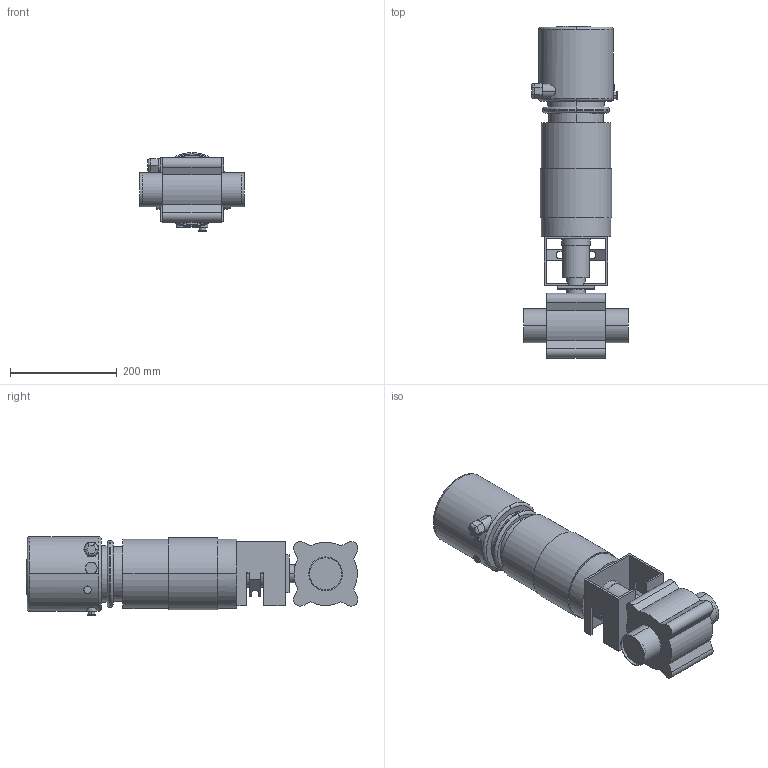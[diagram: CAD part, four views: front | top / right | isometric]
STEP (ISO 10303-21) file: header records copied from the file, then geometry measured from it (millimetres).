
FILE_DESCRIPTION(('Creo Elements/Direct Modeling STEP Export'),'2;1');
FILE_NAME('BLV1-2.5T-NC-12S-CU4.stp','2019-05-10T 8:16:58',(''),(''),'Creo Elements/Direct Modeling STEP processor for AP214 (Solid Model)','Creo Elements/Direct Modeling 19.0F 14-Feb-2017 (C) Parametric Technology GmbH','');
FILE_SCHEMA(('AUTOMOTIVE_DESIGN { 1 0 10303 214 1 1 1 1 }'));
Length unit declared in the file: millimetre
Products named in the file (2): BLV1-2.5T-NC-12S-CU4
Assembly tree (1 placements, depth 2):
  BLV1-2.5T-NC-12S-CU4
    BLV1-2.5T-NC-12S-CU4
Bounding box: 197 x 622.84 x 148 mm (x, y, z)
Volume: 7542810.6 mm3; surface area: 401320.6 mm2
Topology: 1 solids, 2 shells, 249 faces, 634 edges, 413 vertices
Faces by surface type: plane 120, cylinder 119, torus 10
Entity records: 10419 total; most frequent: CARTESIAN_POINT 4489, ORIENTED_EDGE 1270, DIRECTION 1142, EDGE_CURVE 635, AXIS2_PLACEMENT_3D 418, VERTEX_POINT 413, VECTOR 306, LINE 306
